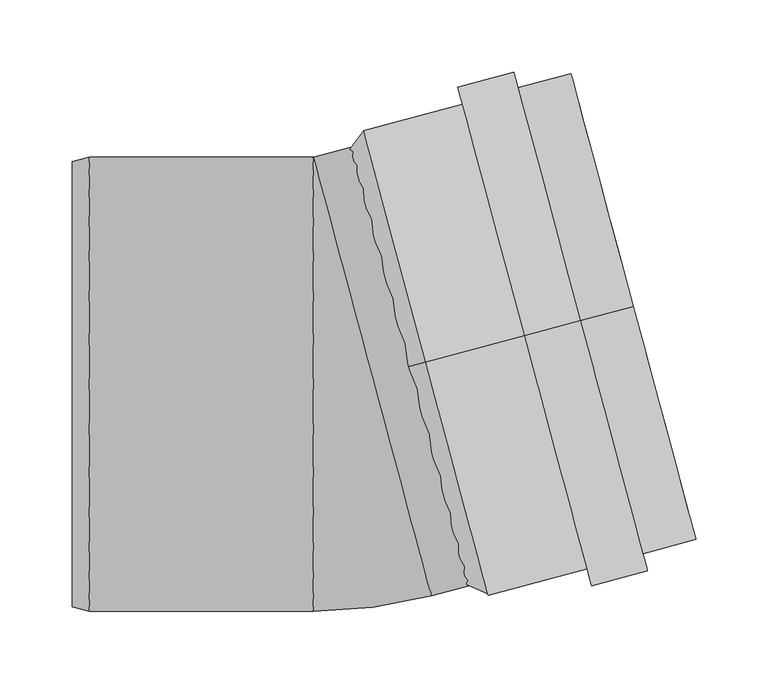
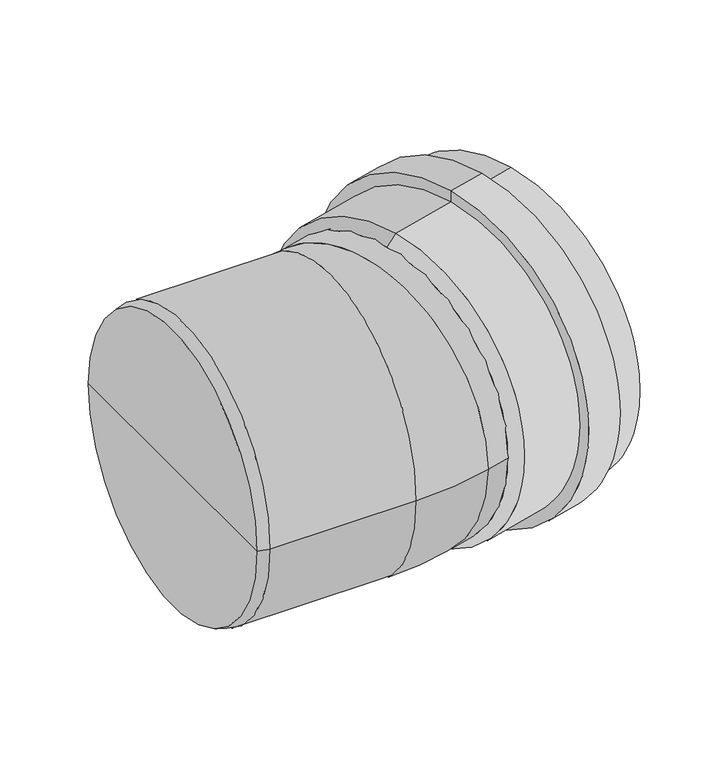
"""IFC4 building model written with IfcOpenShell, lengths in millimetres: pipe fitting geometry, OSMA_KG2000_PPKGB : Koleno 15°."""

from ifc_helpers import new_model, si_unit, point, frame, origin, place, context, project, spatial, polyline, circle_curve, ellipse_curve, trimmed, source, transform, mapped, element, save
from ifc_brep_helpers import plane_surface, cylinder_surface, revolved_surface, advanced_brep


def pipe_fitting_7f08c389(model_context):
    return source(origin(), model_context, "Body", "AdvancedBrep", [
        advanced_brep(
        [(56.9896238, 15.2703237, 157.5), (56.9896238, 15.2703237, -157.5), (200.9125719, 53.8343614, -157.5), (200.9125719, 53.8343614, 157.5), (125.5703574, 33.6464759, 167.2), (125.5703574, 33.6464759, -167.2), (56.9896238, 15.2703237, -167.2), (56.9896238, 15.2703237, 167.2), (125.5703574, 33.6464759, 179.5), (125.5703574, 33.6464759, -179.5), (164.2073905, 43.9992377, 179.5), (164.2073905, 43.9992377, -179.5), (164.2073905, 43.9992377, 167.2), (164.2073905, 43.9992377, -167.2), (200.9125719, 53.8343614, 167.2), (200.9125719, 53.8343614, -167.2), (45.3985138, 12.1644951, 147.8), (45.3985138, 12.1644951, -147.8), (45.3985138, 12.1644951, 157.5), (45.3985138, 12.1644951, -157.5)],
        [
            (0, 1, circle_curve(frame((56.9896238, 15.2703237, 0.0), z_axis=(-0.9659258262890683, -0.2588190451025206, 0.0), x_axis=(0.0, 0.0, -1.0)), 157.5)),
            (1, 2),
            (2, 3, circle_curve(frame((200.9125719, 53.8343614, 0.0), z_axis=(0.9659258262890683, 0.2588190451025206, 0.0), x_axis=(0.0, 0.0, -1.0)), 157.5)),
            (3, 0),
            (1, 0, circle_curve(frame((56.9896238, 15.2703237, 0.0), z_axis=(-0.9659258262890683, -0.2588190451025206, 0.0), x_axis=(0.0, 0.0, -1.0)), 157.5)),
            (3, 2, circle_curve(frame((200.9125719, 53.8343614, 0.0), z_axis=(0.9659258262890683, 0.2588190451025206, 0.0), x_axis=(0.0, 0.0, -1.0)), 157.5)),
            (4, 5, circle_curve(frame((125.5703574, 33.6464759, 0.0), z_axis=(-0.9659258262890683, -0.2588190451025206, 0.0), x_axis=(0.0, 0.0, -1.0)), 167.2)),
            (5, 6),
            (6, 7, circle_curve(frame((56.9896238, 15.2703237, 0.0), z_axis=(0.9659258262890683, 0.2588190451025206, 0.0), x_axis=(0.0, 0.0, -1.0)), 167.2)),
            (7, 4),
            (5, 4, circle_curve(frame((125.5703574, 33.6464759, 0.0), z_axis=(-0.9659258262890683, -0.2588190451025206, 0.0), x_axis=(0.0, 0.0, -1.0)), 167.2)),
            (7, 6, circle_curve(frame((56.9896238, 15.2703237, 0.0), z_axis=(0.9659258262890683, 0.2588190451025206, 0.0), x_axis=(0.0, 0.0, -1.0)), 167.2)),
            (8, 9, circle_curve(frame((125.5703574, 33.6464759, 0.0), z_axis=(-0.9659258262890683, -0.2588190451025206, 0.0), x_axis=(0.0, 0.0, -1.0)), 179.5)),
            (9, 5),
            (4, 8),
            (9, 8, circle_curve(frame((125.5703574, 33.6464759, 0.0), z_axis=(-0.9659258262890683, -0.2588190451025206, 0.0), x_axis=(0.0, 0.0, -1.0)), 179.5)),
            (10, 11, circle_curve(frame((164.2073905, 43.9992377, 0.0), z_axis=(-0.9659258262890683, -0.2588190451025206, 0.0), x_axis=(0.0, 0.0, -1.0)), 179.5)),
            (11, 9),
            (8, 10),
            (11, 10, circle_curve(frame((164.2073905, 43.9992377, 0.0), z_axis=(-0.9659258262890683, -0.2588190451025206, 0.0), x_axis=(0.0, 0.0, -1.0)), 179.5)),
            (12, 13, circle_curve(frame((164.2073905, 43.9992377, 0.0), z_axis=(-0.9659258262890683, -0.2588190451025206, 0.0), x_axis=(0.0, 0.0, -1.0)), 167.2)),
            (13, 11),
            (10, 12),
            (13, 12, circle_curve(frame((164.2073905, 43.9992377, 0.0), z_axis=(-0.9659258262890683, -0.2588190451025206, 0.0), x_axis=(0.0, 0.0, -1.0)), 167.2)),
            (14, 15, circle_curve(frame((200.9125719, 53.8343614, 0.0), z_axis=(-0.9659258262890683, -0.2588190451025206, 0.0), x_axis=(0.0, 0.0, -1.0)), 167.2)),
            (15, 13),
            (12, 14),
            (15, 14, circle_curve(frame((200.9125719, 53.8343614, 0.0), z_axis=(-0.9659258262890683, -0.2588190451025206, 0.0), x_axis=(0.0, 0.0, -1.0)), 167.2)),
            (2, 15),
            (14, 3),
            (16, 17, circle_curve(frame((45.3985138, 12.1644951, 0.0), z_axis=(-0.9659258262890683, -0.2588190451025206, 0.0), x_axis=(0.0, 0.0, -1.0)), 147.8)),
            (17, 1),
            (0, 16),
            (17, 16, circle_curve(frame((45.3985138, 12.1644951, 0.0), z_axis=(-0.9659258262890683, -0.2588190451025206, 0.0), x_axis=(0.0, 0.0, -1.0)), 147.8)),
            (18, 19, circle_curve(frame((45.3985138, 12.1644951, 0.0), z_axis=(-0.9659258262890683, -0.2588190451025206, 0.0), x_axis=(0.0, 0.0, -1.0)), 157.5)),
            (19, 17),
            (16, 18),
            (19, 18, circle_curve(frame((45.3985138, 12.1644951, 0.0), z_axis=(-0.9659258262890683, -0.2588190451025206, 0.0), x_axis=(0.0, 0.0, -1.0)), 157.5)),
            (6, 19),
            (18, 7),
        ],
        [
            revolved_surface(polyline([(200.91257189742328, 53.8343614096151, -157.5), (56.98962380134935, 15.270323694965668, -157.5)]), (2779.4266634, 744.7451299, 0.0), (0.9659258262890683, 0.2588190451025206, 0.0)),
            cylinder_surface(frame((2779.4266634, 744.7451299, 0.0), z_axis=(0.9659258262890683, 0.2588190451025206, 0.0), x_axis=(0.0, 0.0, -1.0)), 167.2),
            plane_surface(frame((125.5703574, 33.6464759, 0.0), z_axis=(-0.9659258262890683, -0.2588190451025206, 0.0), x_axis=(0.0, 0.0, -1.0))),
            cylinder_surface(frame((2779.4266634, 744.7451299, 0.0), z_axis=(0.9659258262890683, 0.2588190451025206, 0.0), x_axis=(0.0, 0.0, -1.0)), 179.5),
            plane_surface(frame((164.2073905, 43.9992377, 0.0), z_axis=(0.9659258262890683, 0.2588190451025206, 0.0), x_axis=(0.0, 0.0, -1.0))),
            plane_surface(frame((200.9125719, 53.8343614, 0.0), z_axis=(0.9659258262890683, 0.2588190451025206, 0.0), x_axis=(0.0, 0.0, -1.0))),
            revolved_surface(polyline([(56.9896238, 15.2703237, -157.5), (45.3985138, 12.1644951, -147.8)]), (2779.4266634, 744.7451299, 0.0), (0.9659258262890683, 0.2588190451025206, 0.0)),
            plane_surface(frame((45.3985138, 12.1644951, 0.0), z_axis=(-0.9659258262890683, -0.2588190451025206, 0.0), x_axis=(0.0, 0.0, -1.0))),
            revolved_surface(polyline([(45.3985138, 12.1644951, -157.5), (56.9896238, 15.2703237, -167.2)]), (2779.4266634, 744.7451299, 0.0), (0.9659258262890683, 0.2588190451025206, 0.0)),
        ],
        [
            (0, [[1, 2, 3, 4]]),
            (0, [[5, -4, 6, -2]]),
            (1, [[7, 8, 9, 10]]),
            (1, [[11, -10, 12, -8]]),
            (2, [[13, 14, -7, 15]]),
            (2, [[16, -15, -11, -14]]),
            (3, [[17, 18, -13, 19]]),
            (3, [[20, -19, -16, -18]]),
            (4, [[21, 22, -17, 23]]),
            (4, [[24, -23, -20, -22]]),
            (1, [[25, 26, -21, 27]]),
            (1, [[28, -27, -24, -26]]),
            (5, [[-3, 29, -25, 30]]),
            (5, [[-6, -30, -28, -29]]),
            (6, [[31, 32, -1, 33]]),
            (6, [[34, -33, -5, -32]]),
            (7, [[35, 36, -31, 37]]),
            (7, [[38, -37, -34, -36]]),
            (8, [[-9, 39, -35, 40]]),
            (8, [[-12, -40, -38, -39]]),
        ],
    ),
        advanced_brep(
        [(-188.0, 0.0, 0.0), (-188.0, 154.2846096, 0.0), (-188.0, -154.2846096, 0.0), (-176.0, 157.5, 0.0), (-176.0, -157.5, 0.0), (-20.5445185, 157.5511113, 0.0), (-20.9327471, 157.5, 0.0), (-20.9327471, -157.5, 0.0), (60.9834807, -146.715524, 0.0), (20.2194811, 5.4177936, 157.5), (20.2194811, 5.4177936, -157.5), (94.8558459, -137.6394511, 0.0), (13.3278467, 166.6271842, 0.0)],
        [
            (0, 1),
            (1, 2, circle_curve(frame((-188.0, 0.0, 0.0), z_axis=(-1.0, 0.0, 0.0), x_axis=(0.0, 1.0, 0.0)), 154.2846096)),
            (2, 0),
            (2, 1, circle_curve(frame((-188.0, 0.0, 0.0), z_axis=(-1.0, 0.0, 0.0), x_axis=(0.0, 1.0, 0.0)), 154.2846096)),
            (1, 3),
            (3, 4, circle_curve(frame((-176.0, 0.0, 0.0), z_axis=(-1.0, 0.0, 0.0), x_axis=(0.0, 1.0, 0.0)), 157.5)),
            (4, 2),
            (4, 3, circle_curve(frame((-176.0, 0.0, 0.0), z_axis=(-1.0, 0.0, 0.0), x_axis=(0.0, 1.0, 0.0)), 157.5)),
            (5, 6, circle_curve(frame((-20.9327471, 159.0, 0.0), z_axis=(0.0, 0.0, -1.0), x_axis=(0.0, -1.0, 0.0)), 1.5)),
            (6, 7, circle_curve(frame((-20.9327471, 0.0, 0.0), z_axis=(1.0, 0.0, 0.0), x_axis=(0.0, 1.0, 0.0)), 157.5)),
            (7, 8, circle_curve(frame((-20.9327471, 159.0, 0.0), z_axis=(0.0, 0.0, 1.0), x_axis=(0.0, -1.0, 0.0)), 316.5)),
            (8, 9, circle_curve(frame((20.2194811, 5.4177936, 0.0), z_axis=(-0.9659258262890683, -0.2588190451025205, 0.0), x_axis=(-0.2588190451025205, 0.9659258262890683, 0.0)), 157.5)),
            (9, 5, circle_curve(frame((20.2194811, 5.4177936, 0.0), z_axis=(-0.9659258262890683, -0.2588190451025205, 0.0), x_axis=(-0.2588190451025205, 0.9659258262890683, 0.0)), 157.5)),
            (5, 10, circle_curve(frame((20.2194811, 5.4177936, 0.0), z_axis=(-0.9659258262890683, -0.2588190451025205, 0.0), x_axis=(-0.2588190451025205, 0.9659258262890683, 0.0)), 157.5)),
            (10, 8, circle_curve(frame((20.2194811, 5.4177936, 0.0), z_axis=(-0.9659258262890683, -0.2588190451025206, 0.0), x_axis=(-0.2588190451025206, 0.9659258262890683, 0.0)), 157.5)),
            (7, 6, circle_curve(frame((-20.9327471, 0.0, 0.0), z_axis=(1.0, 0.0, 0.0), x_axis=(0.0, 1.0, 0.0)), 157.5)),
            (3, 6),
            (7, 4),
            (11, 12, circle_curve(frame((54.0918463, 14.4938665, 0.0), z_axis=(0.9659258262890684, 0.2588190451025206, 0.0), x_axis=(-0.2588190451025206, 0.9659258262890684, 0.0)), 157.5)),
            (12, 11, circle_curve(frame((54.0918463, 14.4938665, 0.0), z_axis=(0.9659258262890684, 0.2588190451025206, 0.0), x_axis=(-0.2588190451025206, 0.9659258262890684, 0.0)), 157.5)),
            (12, 5),
            (8, 11),
        ],
        [
            plane_surface(frame((-188.0, 0.0, 0.0), z_axis=(-1.0, 0.0, 0.0), x_axis=(0.0, 1.0, 0.0))),
            revolved_surface(polyline([(-176.0, 157.5, 0.0), (-188.0, 154.2846096, 0.0)]), (331.0587718, 0.0, 0.0), (-1.0, 0.0, 0.0)),
            revolved_surface(trimmed(ellipse_curve(frame((-20.9327471, 0.0, 0.0), z_axis=(-1.0, 0.0, 0.0), x_axis=(0.0, 1.0, 0.0)), 157.5, 157.5), [point((-20.9327471, -157.5, 0.0))], [point((-20.9327471, 157.5, 0.0))], True, "CARTESIAN"), (-20.9327471, 159.0, 0.0), (0.0, 0.0, 1.0)),
            revolved_surface(trimmed(ellipse_curve(frame((-20.9327471, 0.0, 0.0), z_axis=(-1.0, 0.0, 0.0), x_axis=(0.0, 1.0, 0.0)), 157.5, 157.5), [point((-20.9327471, 157.5, 0.0))], [point((-20.9327471, -157.5, 0.0))], True, "CARTESIAN"), (-20.9327471, 159.0, 0.0), (0.0, 0.0, 1.0)),
            cylinder_surface(frame((331.0587718, 0.0, 0.0), z_axis=(-1.0, 0.0, 0.0), x_axis=(0.0, 1.0, 0.0)), 157.5),
            plane_surface(frame((54.0918463, 14.4938665, 0.0), z_axis=(0.9659258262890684, 0.2588190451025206, 0.0), x_axis=(0.0, 0.0, 1.0))),
            cylinder_surface(frame((20.2194811, 5.4177936, 0.0), z_axis=(-0.9659258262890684, -0.2588190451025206, 0.0), x_axis=(-0.2588190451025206, 0.9659258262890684, 0.0)), 157.5),
        ],
        [
            (0, [[1, 2, 3]]),
            (0, [[-1, -3, 4]]),
            (1, [[-2, 5, 6, 7]]),
            (1, [[-4, -7, 8, -5]]),
            (2, [[9, 10, 11, 12, 13]]),
            (3, [[-9, 14, 15, -11, 16]]),
            (4, [[-6, 17, -16, 18]]),
            (4, [[-8, -18, -10, -17]]),
            (5, [[19, 20]]),
            (6, [[-20, 21, -13, -12, 22]]),
            (6, [[-19, -22, -15, -14, -21]]),
        ],
    ),
    ])


if __name__ == "__main__":
    model = new_model("IFC4")
    model_context = context("Model", 3, world=origin())
    ifc_project = project(units=[si_unit("LENGTHUNIT", "METRE", prefix="MILLI")], contexts=[model_context])
    site = spatial("IfcSite", under=ifc_project)
    building = spatial("IfcBuilding", under=site)
    placement = place(None, origin())
    pipe_fitting_shape = pipe_fitting_7f08c389(model_context)
    element("IfcPipeFitting", 1, ObjectType="OSMA_KG2000_PPKGB : Koleno 15°", at=placement, inside=building, context=model_context, shape_type="MappedRepresentation", body=[
        mapped(pipe_fitting_shape, transform((0.0, 0.0, 0.0), x_axis=(1.0, 0.0, 0.0), y_axis=(0.0, 1.0, 0.0), z_axis=(0.0, 0.0, 1.0))),
    ])
    save(model, "model.ifc")
